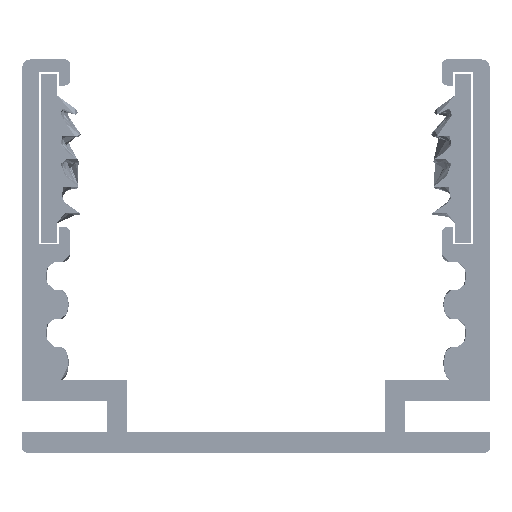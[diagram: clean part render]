
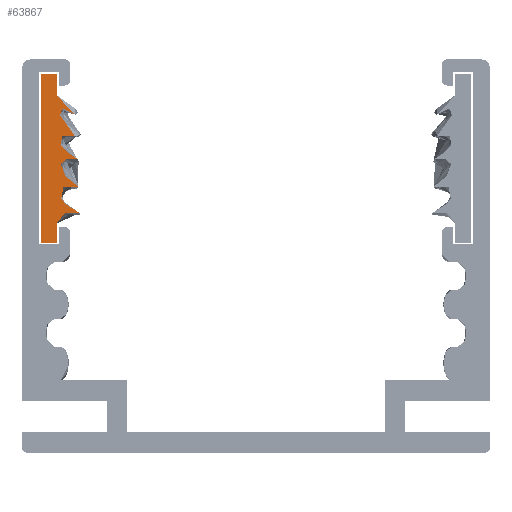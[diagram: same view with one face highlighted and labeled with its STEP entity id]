
A CAD part, left-side view. The second image highlights one B-rep face of the part: STEP entity #63867.
In plain terms, the highlighted planar face has unit normal (-1, 0, 0).
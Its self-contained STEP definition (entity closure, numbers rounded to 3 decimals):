
#4293=FACE_OUTER_BOUND('',#7609,.T.);
#7609=EDGE_LOOP('',(#58372,#58373,#58374,#58375,#58376,#58377,#58378));
#9535=B_SPLINE_CURVE_WITH_KNOTS('',3,(#143341,#143342,#143343,#143344,#143345,
#143346,#143347,#143348,#143349,#143350,#143351),.UNSPECIFIED.,.F.,.F.,
(4,1,1,1,1,1,1,1,4),(7.598,8.598,9.598,10.598,
11.598,12.598,13.598,14.598,15.598),
 .UNSPECIFIED.);
#9537=B_SPLINE_CURVE_WITH_KNOTS('',3,(#143450,#143451,#143452,#143453,#143454,
#143455,#143456,#143457,#143458,#143459,#143460,#143461,#143462,#143463,
#143464,#143465,#143466,#143467,#143468,#143469,#143470,#143471,#143472,
#143473,#143474,#143475,#143476,#143477,#143478,#143479,#143480,#143481,
#143482,#143483,#143484,#143485,#143486,#143487,#143488,#143489,#143490,
#143491),.UNSPECIFIED.,.F.,.F.,(4,1,1,1,1,1,1,1,1,1,1,1,1,1,1,1,1,1,1,1,
1,1,1,1,1,1,1,1,1,1,1,1,1,1,1,1,1,1,1,4),(15.598,16.598,
17.598,18.598,19.598,20.598,21.598,
22.598,23.598,24.598,25.598,26.598,
27.598,28.598,29.598,30.598,31.598,
32.598,33.598,34.598,35.598,36.598,
37.598,38.598,39.598,40.598,41.598,
42.598,43.598,44.598,45.598,46.598,
47.598,48.598,49.598,50.598,51.598,
52.598,53.598,54.598),.UNSPECIFIED.);
#16887=LINE('',#143312,#24265);
#16893=LINE('',#143538,#24271);
#16896=LINE('',#143544,#24274);
#16899=LINE('',#143550,#24277);
#16902=LINE('',#143555,#24280);
#24265=VECTOR('',#81821,10.);
#24271=VECTOR('',#81829,10.);
#24274=VECTOR('',#81834,10.);
#24277=VECTOR('',#81839,10.);
#24280=VECTOR('',#81844,10.);
#30475=VERTEX_POINT('',#143310);
#30476=VERTEX_POINT('',#143311);
#30479=VERTEX_POINT('',#143340);
#30481=VERTEX_POINT('',#143449);
#30483=VERTEX_POINT('',#143537);
#30485=VERTEX_POINT('',#143543);
#30487=VERTEX_POINT('',#143549);
#39767=EDGE_CURVE('',#30475,#30476,#16887,.T.);
#39771=EDGE_CURVE('',#30475,#30479,#9535,.T.);
#39774=EDGE_CURVE('',#30479,#30481,#9537,.T.);
#39777=EDGE_CURVE('',#30483,#30481,#16893,.T.);
#39780=EDGE_CURVE('',#30485,#30483,#16896,.T.);
#39783=EDGE_CURVE('',#30487,#30485,#16899,.T.);
#39786=EDGE_CURVE('',#30476,#30487,#16902,.T.);
#58372=ORIENTED_EDGE('',*,*,#39786,.F.);
#58373=ORIENTED_EDGE('',*,*,#39767,.F.);
#58374=ORIENTED_EDGE('',*,*,#39771,.T.);
#58375=ORIENTED_EDGE('',*,*,#39774,.T.);
#58376=ORIENTED_EDGE('',*,*,#39777,.F.);
#58377=ORIENTED_EDGE('',*,*,#39780,.F.);
#58378=ORIENTED_EDGE('',*,*,#39783,.F.);
#60659=PLANE('',#67421);
#63867=ADVANCED_FACE('',(#4293),#60659,.F.);
#67421=AXIS2_PLACEMENT_3D('',#143558,#81848,#81849);
#81821=DIRECTION('',(0.,0.,-1.));
#81829=DIRECTION('',(0.,0.,-1.));
#81834=DIRECTION('',(0.,-1.,0.));
#81839=DIRECTION('',(0.,0.,1.));
#81844=DIRECTION('',(0.,1.,0.));
#81848=DIRECTION('center_axis',(1.,0.,0.));
#81849=DIRECTION('ref_axis',(0.,1.,0.));
#143310=CARTESIAN_POINT('',(0.,11.798,13.561));
#143311=CARTESIAN_POINT('',(0.,11.798,12.411));
#143312=CARTESIAN_POINT('',(0.,11.798,13.561));
#143340=CARTESIAN_POINT('',(0.,10.466,14.203));
#143341=CARTESIAN_POINT('Ctrl Pts',(0.,11.798,13.561));
#143342=CARTESIAN_POINT('Ctrl Pts',(0.,11.713,13.561));
#143343=CARTESIAN_POINT('Ctrl Pts',(0.,11.513,13.667));
#143344=CARTESIAN_POINT('Ctrl Pts',(0.,11.468,13.869));
#143345=CARTESIAN_POINT('Ctrl Pts',(0.,11.404,14.136));
#143346=CARTESIAN_POINT('Ctrl Pts',(0.,11.243,14.24));
#143347=CARTESIAN_POINT('Ctrl Pts',(0.,11.02,14.208));
#143348=CARTESIAN_POINT('Ctrl Pts',(0.,10.75,14.098));
#143349=CARTESIAN_POINT('Ctrl Pts',(0.,10.548,14.011));
#143350=CARTESIAN_POINT('Ctrl Pts',(0.,10.377,14.081));
#143351=CARTESIAN_POINT('Ctrl Pts',(0.,10.466,14.203));
#143449=CARTESIAN_POINT('',(0.,11.798,21.158));
#143450=CARTESIAN_POINT('Ctrl Pts',(0.,10.466,14.203));
#143451=CARTESIAN_POINT('Ctrl Pts',(0.,11.066,14.551));
#143452=CARTESIAN_POINT('Ctrl Pts',(0.,11.467,14.846));
#143453=CARTESIAN_POINT('Ctrl Pts',(0.,11.582,15.158));
#143454=CARTESIAN_POINT('Ctrl Pts',(0.,11.578,15.562));
#143455=CARTESIAN_POINT('Ctrl Pts',(0.,11.31,15.825));
#143456=CARTESIAN_POINT('Ctrl Pts',(0.,10.988,15.74));
#143457=CARTESIAN_POINT('Ctrl Pts',(0.,10.658,15.589));
#143458=CARTESIAN_POINT('Ctrl Pts',(0.,10.504,15.68));
#143459=CARTESIAN_POINT('Ctrl Pts',(0.,10.502,15.889));
#143460=CARTESIAN_POINT('Ctrl Pts',(0.,10.766,16.014));
#143461=CARTESIAN_POINT('Ctrl Pts',(0.,11.36,16.388));
#143462=CARTESIAN_POINT('Ctrl Pts',(0.,11.622,16.814));
#143463=CARTESIAN_POINT('Ctrl Pts',(0.,11.511,17.268));
#143464=CARTESIAN_POINT('Ctrl Pts',(0.,11.213,17.419));
#143465=CARTESIAN_POINT('Ctrl Pts',(0.,10.776,17.174));
#143466=CARTESIAN_POINT('Ctrl Pts',(0.,10.603,17.065));
#143467=CARTESIAN_POINT('Ctrl Pts',(0.,10.487,17.165));
#143468=CARTESIAN_POINT('Ctrl Pts',(0.,10.485,17.348));
#143469=CARTESIAN_POINT('Ctrl Pts',(0.,10.903,17.61));
#143470=CARTESIAN_POINT('Ctrl Pts',(0.,11.406,17.952));
#143471=CARTESIAN_POINT('Ctrl Pts',(0.,11.552,18.142));
#143472=CARTESIAN_POINT('Ctrl Pts',(0.,11.615,18.49));
#143473=CARTESIAN_POINT('Ctrl Pts',(0.,11.469,18.847));
#143474=CARTESIAN_POINT('Ctrl Pts',(0.,11.202,18.926));
#143475=CARTESIAN_POINT('Ctrl Pts',(0.,10.902,18.813));
#143476=CARTESIAN_POINT('Ctrl Pts',(0.,10.571,18.663));
#143477=CARTESIAN_POINT('Ctrl Pts',(0.,10.372,18.731));
#143478=CARTESIAN_POINT('Ctrl Pts',(0.,10.37,18.974));
#143479=CARTESIAN_POINT('Ctrl Pts',(0.,10.605,19.065));
#143480=CARTESIAN_POINT('Ctrl Pts',(0.,11.069,19.344));
#143481=CARTESIAN_POINT('Ctrl Pts',(0.,11.488,19.629));
#143482=CARTESIAN_POINT('Ctrl Pts',(0.,11.625,19.995));
#143483=CARTESIAN_POINT('Ctrl Pts',(0.,11.621,20.384));
#143484=CARTESIAN_POINT('Ctrl Pts',(0.,11.276,20.381));
#143485=CARTESIAN_POINT('Ctrl Pts',(0.,10.915,20.109));
#143486=CARTESIAN_POINT('Ctrl Pts',(0.,10.718,19.98));
#143487=CARTESIAN_POINT('Ctrl Pts',(0.,10.552,20.029));
#143488=CARTESIAN_POINT('Ctrl Pts',(0.,10.549,20.253));
#143489=CARTESIAN_POINT('Ctrl Pts',(0.,10.772,20.408));
#143490=CARTESIAN_POINT('Ctrl Pts',(0.,11.406,20.919));
#143491=CARTESIAN_POINT('Ctrl Pts',(0.,11.798,21.158));
#143537=CARTESIAN_POINT('',(0.,11.798,22.411));
#143538=CARTESIAN_POINT('',(0.,11.798,22.411));
#143543=CARTESIAN_POINT('',(0.,12.704,22.411));
#143544=CARTESIAN_POINT('',(0.,12.704,22.411));
#143549=CARTESIAN_POINT('',(0.,12.704,12.411));
#143550=CARTESIAN_POINT('',(0.,12.704,12.411));
#143555=CARTESIAN_POINT('',(0.,11.798,12.411));
#143558=CARTESIAN_POINT('Origin',(0.,11.537,17.411));
